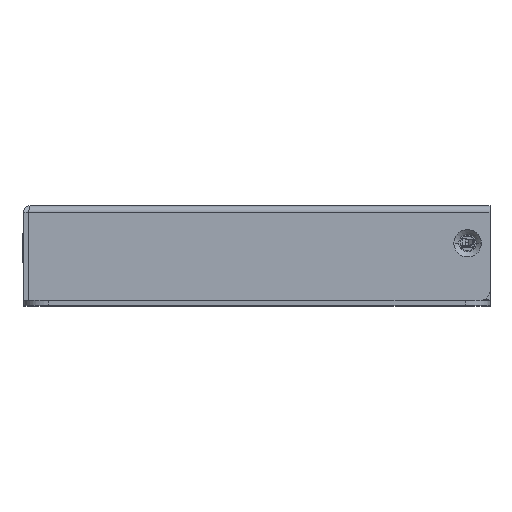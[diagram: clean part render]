
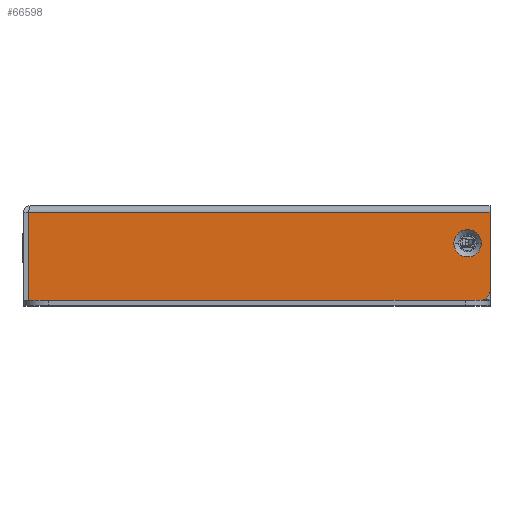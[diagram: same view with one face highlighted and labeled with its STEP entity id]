
A CAD part, top view. The second image highlights one B-rep face of the part: STEP entity #66598.
In plain terms, the highlighted planar face has unit normal (0, 0, 1).
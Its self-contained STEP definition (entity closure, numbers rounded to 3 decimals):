
#2937=DIRECTION('',(-1.,0.,0.));
#2938=VECTOR('',#2937,90.5);
#2939=CARTESIAN_POINT('',(44.75,1.,33.25));
#2940=LINE('',#2939,#2938);
#3792=DIRECTION('',(0.,1.,0.));
#3793=VECTOR('',#3792,15.7);
#3794=CARTESIAN_POINT('',(46.75,3.,33.25));
#3795=LINE('',#3794,#3793);
#4196=CARTESIAN_POINT('',(42.25,12.5,33.25));
#4197=DIRECTION('',(0.,0.,1.));
#4198=DIRECTION('',(1.,0.,0.));
#4199=AXIS2_PLACEMENT_3D('',#4196,#4197,#4198);
#4201=DIRECTION('',(1.,0.,0.));
#4202=VECTOR('',#4201,92.5);
#4203=CARTESIAN_POINT('',(-45.75,18.7,33.25));
#4204=LINE('',#4203,#4202);
#4205=CARTESIAN_POINT('',(44.75,3.,33.25));
#4206=DIRECTION('',(0.,0.,-1.));
#4207=DIRECTION('',(1.,0.,0.));
#4208=AXIS2_PLACEMENT_3D('',#4205,#4206,#4207);
#4210=CARTESIAN_POINT('',(42.25,12.5,33.25));
#4211=DIRECTION('',(0.,0.,-1.));
#4212=DIRECTION('',(1.,0.,0.));
#4213=AXIS2_PLACEMENT_3D('',#4210,#4211,#4212);
#4236=DIRECTION('',(0.,-1.,0.));
#4237=VECTOR('',#4236,17.7);
#4238=CARTESIAN_POINT('',(-45.75,18.7,33.25));
#4239=LINE('',#4238,#4237);
#4278=CARTESIAN_POINT('',(-45.75,18.7,33.25));
#60857=CARTESIAN_POINT('',(46.75,18.7,33.25));
#60858=VERTEX_POINT('',#60857);
#60863=VERTEX_POINT('',#4278);
#60865=CARTESIAN_POINT('',(45.,12.5,33.25));
#60866=CARTESIAN_POINT('',(39.5,12.5,33.25));
#60867=VERTEX_POINT('',#60865);
#60868=VERTEX_POINT('',#60866);
#60870=CARTESIAN_POINT('',(46.75,3.,33.25));
#60872=VERTEX_POINT('',#60870);
#62788=CARTESIAN_POINT('',(44.75,1.,33.25));
#62789=CARTESIAN_POINT('',(-45.75,1.,33.25));
#62790=VERTEX_POINT('',#62788);
#62791=VERTEX_POINT('',#62789);
#66578=CARTESIAN_POINT('',(0.5,9.85,33.25));
#66579=DIRECTION('',(0.,0.,1.));
#66580=DIRECTION('',(0.,-1.,0.));
#66581=AXIS2_PLACEMENT_3D('',#66578,#66579,#66580);
#66582=PLANE('',#66581);
#66584=ORIENTED_EDGE('',*,*,#66583,.F.);
#66586=ORIENTED_EDGE('',*,*,#66585,.T.);
#66587=ORIENTED_EDGE('',*,*,#66144,.F.);
#66589=ORIENTED_EDGE('',*,*,#66588,.T.);
#66590=ORIENTED_EDGE('',*,*,#65249,.T.);
#66591=EDGE_LOOP('',(#66584,#66586,#66587,#66589,#66590));
#66592=FACE_OUTER_BOUND('',#66591,.F.);
#66593=ORIENTED_EDGE('',*,*,#66568,.T.);
#66595=ORIENTED_EDGE('',*,*,#66594,.F.);
#66596=EDGE_LOOP('',(#66593,#66595));
#66597=FACE_BOUND('',#66596,.F.);
#4200=CIRCLE('',#4199,2.75);
#4209=CIRCLE('',#4208,2.);
#4214=CIRCLE('',#4213,2.75);
#65249=EDGE_CURVE('',#62790,#62791,#2940,.T.);
#66144=EDGE_CURVE('',#60872,#60858,#3795,.T.);
#66568=EDGE_CURVE('',#60867,#60868,#4200,.T.);
#66583=EDGE_CURVE('',#60863,#62791,#4239,.T.);
#66585=EDGE_CURVE('',#60863,#60858,#4204,.T.);
#66588=EDGE_CURVE('',#60872,#62790,#4209,.T.);
#66594=EDGE_CURVE('',#60867,#60868,#4214,.T.);
#66598=ADVANCED_FACE('',(#66592,#66597),#66582,.T.);
